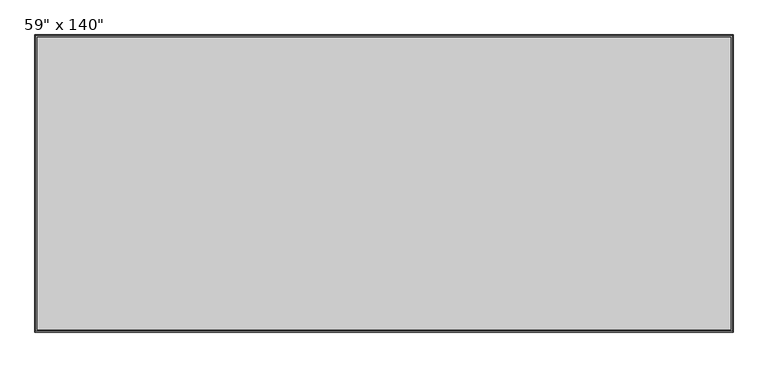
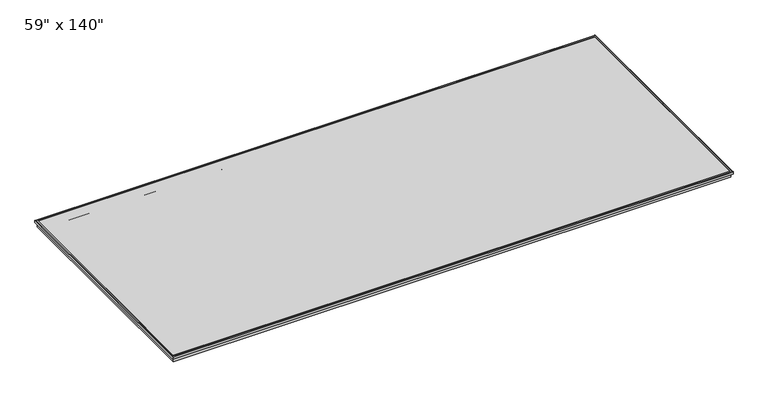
"""IFC4 building model written with IfcOpenShell, lengths in millimetres: proxy geometry."""

from ifc_helpers import new_model, si_unit, frame, origin, place, context, project, spatial, polyline, ellipse_curve, outline, extrude, source, transform, mapped, element, save
from ifc_brep_helpers import plane_surface, cylinder_surface, revolved_surface, advanced_brep


def proxy_a3c1d029(model_context):
    return source(origin(), model_context, "Body", "SolidModel", [
        advanced_brep(
        [(-1778.0, -749.3, 38.7617518), (-1778.0, -749.3, 41.275), (1778.0, -749.3, 41.275), (1778.0, -749.3, 38.7617518), (-1700.7, -672.0, 0.0), (-1700.7, -672.0, 38.7617518), (1700.7, -672.0, 38.7617518), (1700.7, -672.0, 0.0), (-1780.7, -752.0, 14.8528553), (-1780.7, -752.0, 0.0), (1780.7, -752.0, 0.0), (1780.7, -752.0, 14.8528553), (-1781.6789908, -752.9789908, 17.8246368), (1781.6789908, -752.9789908, 17.8246368), (-1786.6368179, -757.9368179, 24.532892), (1786.6368179, -757.9368179, 24.532892), (-1788.1080712, -759.4080712, 25.275), (1788.1080712, -759.4080712, 25.275), (-1790.7, -762.0, 38.275), (-1790.7, -762.0, 25.275), (1790.7, -762.0, 25.275), (1790.7, -762.0, 38.275), (-1787.7, -759.0, 41.275), (1787.7, -759.0, 41.275), (1778.0, 749.3, 41.275), (1778.0, 749.3, 38.7617518), (1700.7, 672.0, 38.7617518), (1700.7, 672.0, 0.0), (1780.7, 752.0, 0.0), (1780.7, 752.0, 14.8528553), (1781.6789908, 752.9789908, 17.8246368), (1786.6368179, 757.9368179, 24.532892), (1788.1080712, 759.4080712, 25.275), (1790.7, 762.0, 25.275), (1790.7, 762.0, 38.275), (1787.7, 759.0, 41.275), (-1778.0, 749.3, 41.275), (-1778.0, 749.3, 38.7617518), (-1700.7, 672.0, 38.7617518), (-1700.7, 672.0, 0.0), (-1780.7, 752.0, 0.0), (-1780.7, 752.0, 14.8528553), (-1781.6789908, 752.9789908, 17.8246368), (-1786.6368179, 757.9368179, 24.532892), (-1788.1080712, 759.4080712, 25.275), (-1790.7, 762.0, 25.275), (-1790.7, 762.0, 38.275), (-1787.7, 759.0, 41.275)],
        [
            (0, 1),
            (1, 2),
            (2, 3),
            (3, 0),
            (4, 5),
            (5, 6),
            (6, 7),
            (7, 4),
            (8, 9),
            (9, 10),
            (10, 11),
            (11, 8),
            (12, 8, ellipse_curve(frame((-1785.7, -757.0, 14.8528553), z_axis=(-0.7071067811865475, 0.7071067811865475, 0.0), x_axis=(0.7071067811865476, 0.7071067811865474, 0.0)), 7.0710678, 5.0)),
            (11, 13, ellipse_curve(frame((1785.7, -757.0, 14.8528553), z_axis=(0.7071067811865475, 0.7071067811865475, 0.0), x_axis=(0.7071067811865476, -0.7071067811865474, 0.0)), 7.0710678, 5.0)),
            (13, 12),
            (14, 12),
            (13, 15),
            (15, 14),
            (16, 14, ellipse_curve(frame((-1788.1080712, -759.4080712, 23.4455422), z_axis=(-0.7071067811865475, 0.7071067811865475, 0.0), x_axis=(0.7071067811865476, 0.7071067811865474, 0.0)), 2.587244, 1.8294578)),
            (15, 17, ellipse_curve(frame((1788.1080712, -759.4080712, 23.4455422), z_axis=(0.7071067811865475, 0.7071067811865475, 0.0), x_axis=(0.7071067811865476, -0.7071067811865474, 0.0)), 2.587244, 1.8294578)),
            (17, 16),
            (18, 19),
            (19, 20),
            (20, 21),
            (21, 18),
            (22, 18, ellipse_curve(frame((-1787.7, -759.0, 38.275), z_axis=(0.7071067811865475, -0.7071067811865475, 0.0), x_axis=(-0.7071067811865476, -0.7071067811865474, 0.0)), 4.2426407, 3.0)),
            (21, 23, ellipse_curve(frame((1787.7, -759.0, 38.275), z_axis=(-0.7071067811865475, -0.7071067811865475, 0.0), x_axis=(-0.7071067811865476, 0.7071067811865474, 0.0)), 4.2426407, 3.0)),
            (23, 22),
            (2, 24),
            (24, 25),
            (25, 3),
            (6, 26),
            (26, 27),
            (27, 7),
            (10, 28),
            (28, 29),
            (29, 11),
            (29, 30, ellipse_curve(frame((1785.7, 757.0, 14.8528553), z_axis=(-0.7071067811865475, 0.7071067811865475, 0.0), x_axis=(0.7071067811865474, 0.7071067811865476, 0.0)), 7.0710678, 5.0)),
            (30, 13),
            (30, 31),
            (31, 15),
            (31, 32, ellipse_curve(frame((1788.1080712, 759.4080712, 23.4455422), z_axis=(-0.7071067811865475, 0.7071067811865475, 0.0), x_axis=(0.7071067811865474, 0.7071067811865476, 0.0)), 2.587244, 1.8294578)),
            (32, 17),
            (20, 33),
            (33, 34),
            (34, 21),
            (34, 35, ellipse_curve(frame((1787.7, 759.0, 38.275), z_axis=(0.7071067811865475, -0.7071067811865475, 0.0), x_axis=(-0.7071067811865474, -0.7071067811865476, 0.0)), 4.2426407, 3.0)),
            (35, 23),
            (24, 36),
            (36, 37),
            (37, 25),
            (26, 38),
            (38, 39),
            (39, 27),
            (28, 40),
            (40, 41),
            (41, 29),
            (41, 42, ellipse_curve(frame((-1785.7, 757.0, 14.8528553), z_axis=(-0.7071067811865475, -0.7071067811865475, 0.0), x_axis=(-0.7071067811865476, 0.7071067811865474, 0.0)), 7.0710678, 5.0)),
            (42, 30),
            (42, 43),
            (43, 31),
            (43, 44, ellipse_curve(frame((-1788.1080712, 759.4080712, 23.4455422), z_axis=(-0.7071067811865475, -0.7071067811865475, 0.0), x_axis=(-0.7071067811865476, 0.7071067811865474, 0.0)), 2.587244, 1.8294578)),
            (44, 32),
            (33, 45),
            (45, 46),
            (46, 34),
            (46, 47, ellipse_curve(frame((-1787.7, 759.0, 38.275), z_axis=(0.7071067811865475, 0.7071067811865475, 0.0), x_axis=(0.7071067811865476, -0.7071067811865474, 0.0)), 4.2426407, 3.0)),
            (47, 35),
            (36, 1),
            (0, 37),
            (5, 38),
            (4, 39),
            (9, 40),
            (8, 41),
            (12, 42),
            (14, 43),
            (16, 44),
            (19, 45),
            (18, 46),
            (22, 47),
        ],
        [
            plane_surface(frame((-1778.0, -749.3, 41.275), z_axis=(0.0, 1.0, 0.0), x_axis=(1.0, 0.0, 0.0))),
            plane_surface(frame((-1700.7, -672.0, 38.7617518), z_axis=(0.0, 1.0, 0.0), x_axis=(1.0, 0.0, 0.0))),
            plane_surface(frame((-1780.7, -752.0, 0.0), z_axis=(0.0, -1.0, 0.0), x_axis=(1.0, 0.0, 0.0))),
            revolved_surface(polyline([(1790.69999999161, -752.0, 14.8528553), (-1790.69999999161, -752.0, 14.8528553)]), (-1790.7, -757.0, 14.8528553), (1.0, 0.0, 0.0)),
            plane_surface(frame((-1781.6789908, -752.9789908, 17.8246368), z_axis=(0.0, -0.8042018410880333, -0.5943562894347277), x_axis=(1.0, 0.0, 0.0))),
            revolved_surface(polyline([(1789.9375289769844, -757.5786134, 23.4455422), (-1789.9375289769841, -757.5786134, 23.4455422)]), (-1790.7, -759.4080712, 23.4455422), (1.0, 0.0, 0.0)),
            plane_surface(frame((-1790.7, -762.0, 25.275), z_axis=(0.0, -1.0, 0.0), x_axis=(1.0, 0.0, 0.0))),
            cylinder_surface(frame((-1790.7, -759.0, 38.275), z_axis=(-1.0, 0.0, 0.0), x_axis=(0.0, 1.0, 0.0)), 3.0),
            plane_surface(frame((1778.0, -749.3, 41.275), z_axis=(-1.0, 0.0, 0.0), x_axis=(0.0, 1.0, 0.0))),
            plane_surface(frame((1700.7, -672.0, 38.7617518), z_axis=(-1.0, 0.0, 0.0), x_axis=(0.0, 1.0, 0.0))),
            plane_surface(frame((1780.7, -752.0, 0.0), z_axis=(1.0, 0.0, 0.0), x_axis=(0.0, 1.0, 0.0))),
            revolved_surface(polyline([(1780.7, 761.9999999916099, 14.8528553), (1780.7, -761.9999999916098, 14.8528553)]), (1785.7, -762.0, 14.8528553), (0.0, 1.0, 0.0)),
            plane_surface(frame((1781.6789908, -752.9789908, 17.8246368), z_axis=(0.8042018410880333, 0.0, -0.5943562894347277), x_axis=(0.0, 1.0, 0.0))),
            revolved_surface(polyline([(1786.2786134, 761.2375289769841, 23.4455422), (1786.2786134, -761.2375289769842, 23.4455422)]), (1788.1080712, -762.0, 23.4455422), (0.0, 1.0, 0.0)),
            plane_surface(frame((1790.7, -762.0, 25.275), z_axis=(1.0, 0.0, 0.0), x_axis=(0.0, 1.0, 0.0))),
            cylinder_surface(frame((1787.7, -762.0, 38.275), z_axis=(0.0, -1.0, 0.0), x_axis=(-1.0, 0.0, 0.0)), 3.0),
            plane_surface(frame((1778.0, 749.3, 41.275), z_axis=(0.0, -1.0, 0.0), x_axis=(-1.0, 0.0, 0.0))),
            plane_surface(frame((1700.7, 672.0, 38.7617518), z_axis=(0.0, -1.0, 0.0), x_axis=(-1.0, 0.0, 0.0))),
            plane_surface(frame((1780.7, 752.0, 0.0), z_axis=(0.0, 1.0, 0.0), x_axis=(-1.0, 0.0, 0.0))),
            revolved_surface(polyline([(-1790.69999999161, 752.0, 14.8528553), (1790.69999999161, 752.0, 14.8528553)]), (1790.7, 757.0, 14.8528553), (-1.0, 0.0, 0.0)),
            plane_surface(frame((1781.6789908, 752.9789908, 17.8246368), z_axis=(0.0, 0.8042018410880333, -0.5943562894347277), x_axis=(-1.0, 0.0, 0.0))),
            revolved_surface(polyline([(-1789.9375289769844, 757.5786134, 23.4455422), (1789.9375289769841, 757.5786134, 23.4455422)]), (1790.7, 759.4080712, 23.4455422), (-1.0, 0.0, 0.0)),
            plane_surface(frame((1790.7, 762.0, 25.275), z_axis=(0.0, 1.0, 0.0), x_axis=(-1.0, 0.0, 0.0))),
            cylinder_surface(frame((1790.7, 759.0, 38.275), z_axis=(1.0, 0.0, 0.0), x_axis=(0.0, -1.0, 0.0)), 3.0),
            plane_surface(frame((-1778.0, 749.3, 41.275), z_axis=(1.0, 0.0, 0.0), x_axis=(0.0, -1.0, 0.0))),
            plane_surface(frame((-1778.0, 749.3, 38.7617518), z_axis=(0.0, 0.0, 1.0), x_axis=(0.0, -1.0, 0.0))),
            plane_surface(frame((-1700.7, 672.0, 38.7617518), z_axis=(1.0, 0.0, 0.0), x_axis=(0.0, -1.0, 0.0))),
            plane_surface(frame((-1700.7, 672.0, 0.0), z_axis=(0.0, 0.0, -1.0), x_axis=(0.0, -1.0, 0.0))),
            plane_surface(frame((-1780.7, 752.0, 0.0), z_axis=(-1.0, 0.0, 0.0), x_axis=(0.0, -1.0, 0.0))),
            revolved_surface(polyline([(-1780.7, -761.9999999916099, 14.8528553), (-1780.7, 761.9999999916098, 14.8528553)]), (-1785.7, 762.0, 14.8528553), (0.0, -1.0, 0.0)),
            plane_surface(frame((-1781.6789908, 752.9789908, 17.8246368), z_axis=(-0.8042018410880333, 0.0, -0.5943562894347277), x_axis=(0.0, -1.0, 0.0))),
            revolved_surface(polyline([(-1786.2786134, -761.2375289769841, 23.4455422), (-1786.2786134, 761.2375289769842, 23.4455422)]), (-1788.1080712, 762.0, 23.4455422), (0.0, -1.0, 0.0)),
            plane_surface(frame((-1788.1080712, 759.4080712, 25.275), z_axis=(0.0, 0.0, -1.0), x_axis=(0.0, -1.0, 0.0))),
            plane_surface(frame((-1790.7, 762.0, 25.275), z_axis=(-1.0, 0.0, 0.0), x_axis=(0.0, -1.0, 0.0))),
            cylinder_surface(frame((-1787.7, 762.0, 38.275), z_axis=(0.0, 1.0, 0.0), x_axis=(1.0, 0.0, 0.0)), 3.0),
            plane_surface(frame((-1787.7, 759.0, 41.275), z_axis=(0.0, 0.0, 1.0), x_axis=(0.0, -1.0, 0.0))),
        ],
        [
            (0, [[1, 2, 3, 4]]),
            (1, [[5, 6, 7, 8]]),
            (2, [[9, 10, 11, 12]]),
            (3, [[13, -12, 14, 15]]),
            (4, [[16, -15, 17, 18]]),
            (5, [[19, -18, 20, 21]]),
            (6, [[22, 23, 24, 25]]),
            (7, [[26, -25, 27, 28]]),
            (8, [[-3, 29, 30, 31]]),
            (9, [[-7, 32, 33, 34]]),
            (10, [[-11, 35, 36, 37]]),
            (11, [[-14, -37, 38, 39]]),
            (12, [[-17, -39, 40, 41]]),
            (13, [[-20, -41, 42, 43]]),
            (14, [[-24, 44, 45, 46]]),
            (15, [[-27, -46, 47, 48]]),
            (16, [[-30, 49, 50, 51]]),
            (17, [[-33, 52, 53, 54]]),
            (18, [[-36, 55, 56, 57]]),
            (19, [[-38, -57, 58, 59]]),
            (20, [[-40, -59, 60, 61]]),
            (21, [[-42, -61, 62, 63]]),
            (22, [[-45, 64, 65, 66]]),
            (23, [[-47, -66, 67, 68]]),
            (24, [[-50, 69, -1, 70]]),
            (25, [[-31, -51, -70, -4], [71, -52, -32, -6]]),
            (26, [[-53, -71, -5, 72]]),
            (27, [[73, -55, -35, -10], [-34, -54, -72, -8]]),
            (28, [[-56, -73, -9, 74]]),
            (29, [[-58, -74, -13, 75]]),
            (30, [[-60, -75, -16, 76]]),
            (31, [[-62, -76, -19, 77]]),
            (32, [[78, -64, -44, -23], [-43, -63, -77, -21]]),
            (33, [[-65, -78, -22, 79]]),
            (34, [[-67, -79, -26, 80]]),
            (35, [[-48, -68, -80, -28], [-69, -49, -29, -2]]),
        ],
    ),
        extrude(outline(polyline([(1778.0, 749.3), (1778.0, -749.3), (-1778.0, -749.3), (-1778.0, 749.3), (1778.0, 749.3)])), frame((0.0, 0.0, 38.7617518), z_axis=(0.0, 0.0, 1.0), x_axis=(1.0, 0.0, 0.0)), (0.0, 0.0, 1.0), 0.5132482),
    ])


if __name__ == "__main__":
    model = new_model("IFC4")
    model_context = context("Model", 3, world=origin())
    ifc_project = project(units=[si_unit("LENGTHUNIT", "METRE", prefix="MILLI")], contexts=[model_context])
    site = spatial("IfcSite", under=ifc_project)
    building = spatial("IfcBuilding", under=site)
    placement = place(None, origin())
    proxy_shape = proxy_a3c1d029(model_context)
    element("IfcBuildingElementProxy", 1, Name="Electronics-Visual-Projectors_Da-Lite_Specialty-Equipment_Parallax-Thin : 59\" x 140\"", ObjectType="Electronics-Visual-Projectors_Da-Lite_Specialty-Equipment_Parallax-Thin : 59\" x 140\"", at=placement, inside=building, context=model_context, shape_type="MappedRepresentation", body=[
        mapped(proxy_shape, transform((0.0, 0.0, 0.0), x_axis=(1.0, 0.0, 0.0), y_axis=(0.0, 1.0, 0.0), z_axis=(0.0, 0.0, 1.0))),
    ])
    save(model, "model.ifc")
